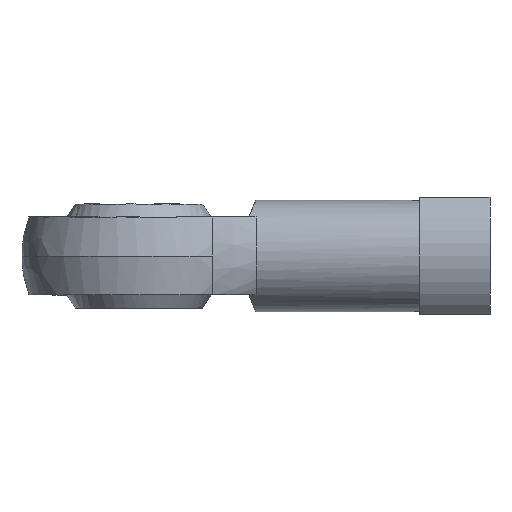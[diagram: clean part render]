
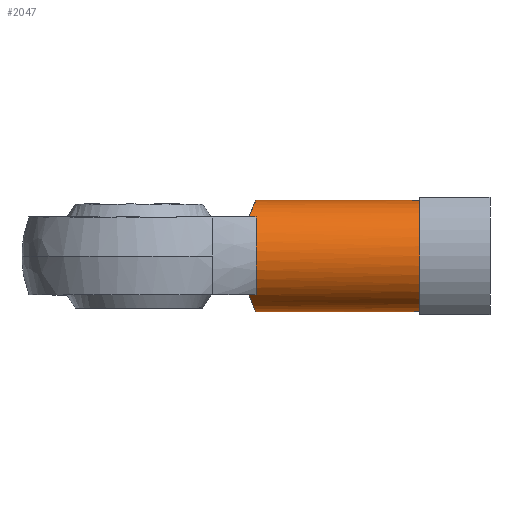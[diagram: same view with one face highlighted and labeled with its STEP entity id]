
A CAD part, front view. The second image highlights one B-rep face of the part: STEP entity #2047.
In plain terms, the highlighted cylindrical face has radius 4.275 mm (diameter 8.55 mm), a partial arc.
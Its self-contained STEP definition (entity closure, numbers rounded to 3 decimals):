
#34 = VECTOR ( 'NONE', #1187, 1000. ) ;
#38 = DIRECTION ( 'NONE',  ( 1., 0., 0. ) ) ;
#96 = CARTESIAN_POINT ( 'NONE',  ( 21.6, 0., 4.275 ) ) ;
#97 = CARTESIAN_POINT ( 'NONE',  ( 8.539, -2.85, 3.198 ) ) ;
#100 = VERTEX_POINT ( 'NONE', #615 ) ;
#101 = CARTESIAN_POINT ( 'NONE',  ( 8.894, -1.405, 4.047 ) ) ;
#111 = DIRECTION ( 'NONE',  ( 0., 0., -1. ) ) ;
#121 = B_SPLINE_CURVE_WITH_KNOTS ( 'NONE', 3,
 ( #1379, #423, #887, #1220, #226, #1389, #562, #723, #1906, #895 ),
 .UNSPECIFIED., .F., .F.,
 ( 4, 2, 2, 2, 4 ),
 ( -0.003, -0.003, -0.002, -0.001, 0. ),
 .UNSPECIFIED. ) ;
#126 = CARTESIAN_POINT ( 'NONE',  ( 13.5, 0., 4.275 ) ) ;
#130 = EDGE_LOOP ( 'NONE', ( #1975, #358, #1713, #1917, #348, #1702, #2052, #468 ) ) ;
#144 = VERTEX_POINT ( 'NONE', #1627 ) ;
#226 = CARTESIAN_POINT ( 'NONE',  ( 8.796, -1.926, -3.827 ) ) ;
#250 = VERTEX_POINT ( 'NONE', #1340 ) ;
#258 = CARTESIAN_POINT ( 'NONE',  ( 8.795, -1.928, 3.826 ) ) ;
#270 = CARTESIAN_POINT ( 'NONE',  ( 8.608, -2.638, 3.376 ) ) ;
#277 = VERTEX_POINT ( 'NONE', #96 ) ;
#348 = ORIENTED_EDGE ( 'NONE', *, *, #1945, .F. ) ;
#358 = ORIENTED_EDGE ( 'NONE', *, *, #1492, .T. ) ;
#379 = EDGE_CURVE ( 'NONE', #250, #277, #1450, .T. ) ;
#393 = EDGE_CURVE ( 'NONE', #657, #277, #2129, .T. ) ;
#423 = CARTESIAN_POINT ( 'NONE',  ( 8.539, -2.851, -3.197 ) ) ;
#433 = CARTESIAN_POINT ( 'NONE',  ( 9., -0.289, 4.275 ) ) ;
#468 = ORIENTED_EDGE ( 'NONE', *, *, #393, .T. ) ;
#528 = AXIS2_PLACEMENT_3D ( 'NONE', #612, #1961, #111 ) ;
#562 = CARTESIAN_POINT ( 'NONE',  ( 8.932, -1.138, -4.131 ) ) ;
#612 = CARTESIAN_POINT ( 'NONE',  ( 21.6, 0., 0. ) ) ;
#615 = CARTESIAN_POINT ( 'NONE',  ( 9., 0., -4.275 ) ) ;
#622 = B_SPLINE_CURVE_WITH_KNOTS ( 'NONE', 3,
 ( #1074, #433, #1926, #1250, #101, #258, #1431, #270, #97, #1080 ),
 .UNSPECIFIED., .F., .F.,
 ( 4, 2, 2, 2, 4 ),
 ( 0.002, 0.003, 0.004, 0.005, 0.006 ),
 .UNSPECIFIED. ) ;
#651 = LINE ( 'NONE', #1515, #34 ) ;
#657 = VERTEX_POINT ( 'NONE', #1854 ) ;
#695 = DIRECTION ( 'NONE',  ( 0., 0., -1. ) ) ;
#723 = CARTESIAN_POINT ( 'NONE',  ( 8.986, -0.576, -4.246 ) ) ;
#887 = CARTESIAN_POINT ( 'NONE',  ( 8.608, -2.639, -3.375 ) ) ;
#895 = CARTESIAN_POINT ( 'NONE',  ( 9., 0., -4.275 ) ) ;
#920 = CARTESIAN_POINT ( 'NONE',  ( 9., 0., 0. ) ) ;
#929 = EDGE_CURVE ( 'NONE', #1651, #2050, #1839, .T. ) ;
#987 = VECTOR ( 'NONE', #1617, 1000. ) ;
#1040 = VERTEX_POINT ( 'NONE', #1193 ) ;
#1051 = DIRECTION ( 'NONE',  ( 1., 0., 0. ) ) ;
#1074 = CARTESIAN_POINT ( 'NONE',  ( 9., 0., 4.275 ) ) ;
#1080 = CARTESIAN_POINT ( 'NONE',  ( 8.469, -3.046, 3. ) ) ;
#1187 = DIRECTION ( 'NONE',  ( -1., 0., 0. ) ) ;
#1193 = CARTESIAN_POINT ( 'NONE',  ( 8.469, -3.046, -3. ) ) ;
#1220 = CARTESIAN_POINT ( 'NONE',  ( 8.736, -2.176, -3.69 ) ) ;
#1250 = CARTESIAN_POINT ( 'NONE',  ( 8.933, -1.13, 4.133 ) ) ;
#1280 = DIRECTION ( 'NONE',  ( 1., 0., 0. ) ) ;
#1340 = CARTESIAN_POINT ( 'NONE',  ( 9., 0., 4.275 ) ) ;
#1379 = CARTESIAN_POINT ( 'NONE',  ( 8.469, -3.046, -3. ) ) ;
#1389 = CARTESIAN_POINT ( 'NONE',  ( 8.893, -1.408, -4.046 ) ) ;
#1420 = EDGE_CURVE ( 'NONE', #1040, #100, #121, .T. ) ;
#1429 = EDGE_CURVE ( 'NONE', #100, #657, #1729, .T. ) ;
#1431 = CARTESIAN_POINT ( 'NONE',  ( 8.736, -2.178, 3.689 ) ) ;
#1436 = CARTESIAN_POINT ( 'NONE',  ( 9., -3.046, 3. ) ) ;
#1450 = LINE ( 'NONE', #126, #987 ) ;
#1492 = EDGE_CURVE ( 'NONE', #250, #144, #622, .T. ) ;
#1508 = VECTOR ( 'NONE', #1051, 1000. ) ;
#1515 = CARTESIAN_POINT ( 'NONE',  ( 9., -3.046, 3. ) ) ;
#1525 = AXIS2_PLACEMENT_3D ( 'NONE', #1923, #1590, #695 ) ;
#1590 = DIRECTION ( 'NONE',  ( 1., 0., 0. ) ) ;
#1617 = DIRECTION ( 'NONE',  ( 1., 0., 0. ) ) ;
#1627 = CARTESIAN_POINT ( 'NONE',  ( 8.469, -3.046, 3. ) ) ;
#1651 = VERTEX_POINT ( 'NONE', #1436 ) ;
#1702 = ORIENTED_EDGE ( 'NONE', *, *, #1420, .T. ) ;
#1713 = ORIENTED_EDGE ( 'NONE', *, *, #1872, .F. ) ;
#1729 = LINE ( 'NONE', #2069, #1508 ) ;
#1839 = CIRCLE ( 'NONE', #2066, 4.275 ) ;
#1848 = FACE_OUTER_BOUND ( 'NONE', #130, .T. ) ;
#1854 = CARTESIAN_POINT ( 'NONE',  ( 21.6, 0., -4.275 ) ) ;
#1872 = EDGE_CURVE ( 'NONE', #1651, #144, #651, .T. ) ;
#1906 = CARTESIAN_POINT ( 'NONE',  ( 9., -0.289, -4.275 ) ) ;
#1914 = LINE ( 'NONE', #2024, #1992 ) ;
#1917 = ORIENTED_EDGE ( 'NONE', *, *, #929, .T. ) ;
#1923 = CARTESIAN_POINT ( 'NONE',  ( 13.5, 0., 0. ) ) ;
#1926 = CARTESIAN_POINT ( 'NONE',  ( 8.986, -0.573, 4.246 ) ) ;
#1930 = CYLINDRICAL_SURFACE ( 'NONE', #1525, 4.275 ) ;
#1945 = EDGE_CURVE ( 'NONE', #1040, #2050, #1914, .T. ) ;
#1961 = DIRECTION ( 'NONE',  ( -1., 0., 0. ) ) ;
#1969 = DIRECTION ( 'NONE',  ( 0., 0., -1. ) ) ;
#1975 = ORIENTED_EDGE ( 'NONE', *, *, #379, .F. ) ;
#1992 = VECTOR ( 'NONE', #38, 1000. ) ;
#2024 = CARTESIAN_POINT ( 'NONE',  ( 8.469, -3.046, -3. ) ) ;
#2035 = CARTESIAN_POINT ( 'NONE',  ( 9., -3.046, -3. ) ) ;
#2047 = ADVANCED_FACE ( 'NONE', ( #1848 ), #1930, .T. ) ;
#2050 = VERTEX_POINT ( 'NONE', #2035 ) ;
#2052 = ORIENTED_EDGE ( 'NONE', *, *, #1429, .T. ) ;
#2066 = AXIS2_PLACEMENT_3D ( 'NONE', #920, #1280, #1969 ) ;
#2069 = CARTESIAN_POINT ( 'NONE',  ( 13.5, 0., -4.275 ) ) ;
#2129 = CIRCLE ( 'NONE', #528, 4.275 ) ;
